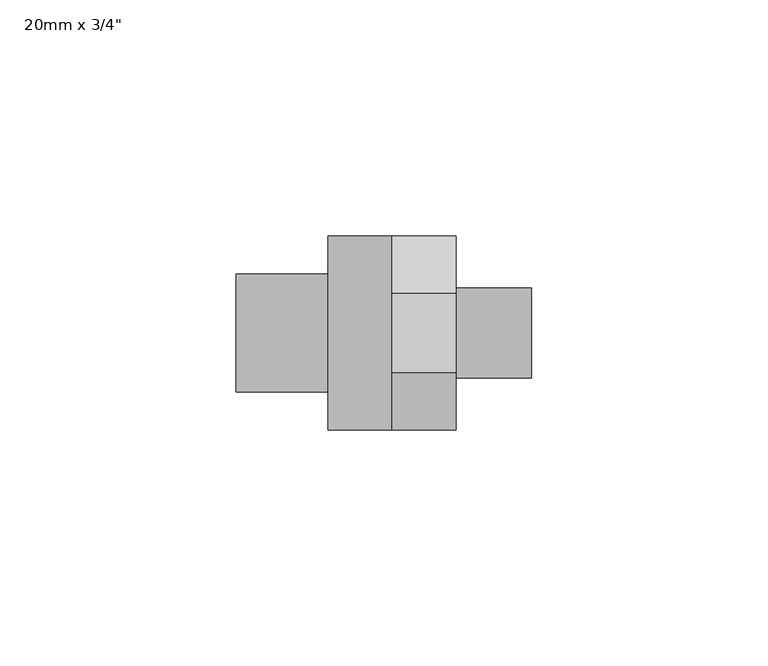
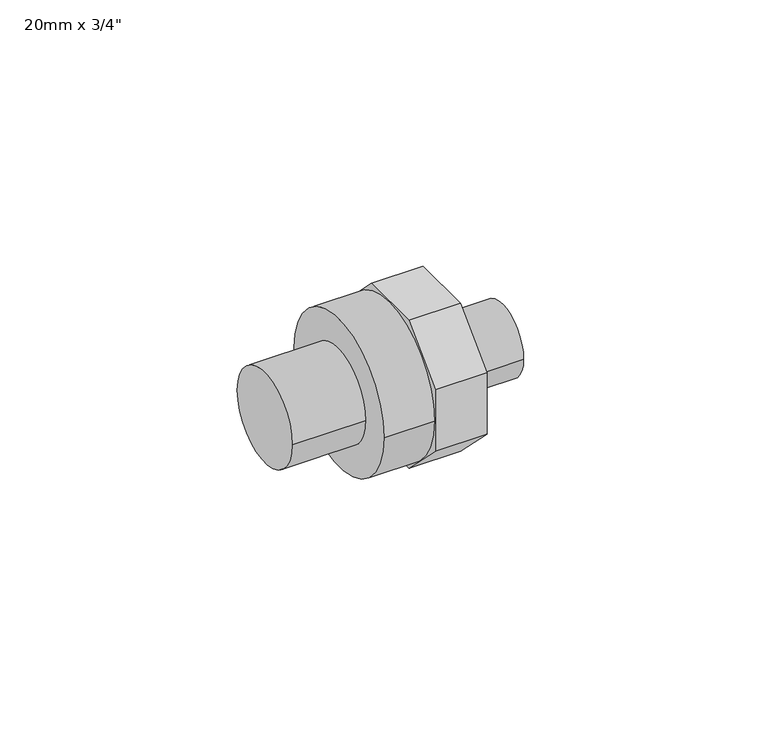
"""IFC4 building model written with IfcOpenShell, lengths in millimetres: pipe fitting geometry."""

import ifcopenshell
import ifcopenshell.guid

model = None  # the IFC model being written
_history = None  # IfcOwnerHistory: only IFC2X3 demands one
_inside = {}  # id of a spatial element -> (the spatial element, [elements in it])
_under = {}  # id of a project, library or spatial element -> (it, [spatial elements below it])
_declared = {}  # id of a project -> (the project, [libraries it declares])
_typed = {}  # id of a type object -> (the type object, [elements of that type])
_made_of = {}  # id of a material, layer set ... -> (it, [elements and type objects made of it])


def new_model(schema):
    """Start an empty IFC model of exactly this schema.

    Asked for "IFC4X3", IfcOpenShell would pick the latest addendum, in which some entities
    have other attributes; the version numbers below select the first issue.
    IFC2X3 requires an IfcOwnerHistory on every rooted entity: one is made here for all.
    """
    global model, _history
    if schema == "IFC4X3":
        model = ifcopenshell.file(schema_version=(4, 3, 0, 0))
    else:
        model = ifcopenshell.file(schema=schema)
    _inside.clear()
    _under.clear()
    _declared.clear()
    _typed.clear()
    _made_of.clear()
    _history = None
    if model.schema == "IFC2X3":
        org = make("IfcOrganization", Name="unknown")
        user = make(
            "IfcPersonAndOrganization",
            ThePerson=make("IfcPerson", FamilyName="unknown"),
            TheOrganization=org,
        )
        app = make(
            "IfcApplication",
            ApplicationDeveloper=org,
            Version="unknown",
            ApplicationFullName="unknown",
            ApplicationIdentifier="unknown",
        )
        _history = make(
            "IfcOwnerHistory",
            OwningUser=user,
            OwningApplication=app,
            ChangeAction="ADDED",
            CreationDate=0,
        )
    return model


def make(cls, **values):
    """One entity of the class cls with the attributes given. An attribute that is None is left unset."""
    return model.create_entity(
        cls, **{name: value for name, value in values.items() if value is not None}
    )


def rooted(cls, **values):
    """An entity with a GlobalId (a new one), such as an element, a storey or a relation."""
    return make(cls, GlobalId=ifcopenshell.guid.new(), OwnerHistory=_history, **values)


def si_unit(unit_type, name, prefix=None):
    """IfcSIUnit, for example si_unit("LENGTHUNIT", "METRE", prefix="MILLI")."""
    return make("IfcSIUnit", UnitType=unit_type, Prefix=prefix, Name=name)


def assignment(units):
    """IfcUnitAssignment: the units of a project."""
    return None if units is None else make("IfcUnitAssignment", Units=units)


def point(xyz):
    """IfcCartesianPoint."""
    return None if xyz is None else make("IfcCartesianPoint", Coordinates=xyz)


def direction(xyz):
    """IfcDirection."""
    return None if xyz is None else make("IfcDirection", DirectionRatios=xyz)


def frame(location, z_axis=None, x_axis=None):
    """IfcAxis2Placement3D, a coordinate frame: its origin and axes. An axis left out is left unset."""
    return make(
        "IfcAxis2Placement3D",
        Location=point(location),
        Axis=direction(z_axis),
        RefDirection=direction(x_axis),
    )


def frame_2d(location, x_axis=None):
    """IfcAxis2Placement2D, a coordinate frame in the plane: its origin and x axis."""
    return make(
        "IfcAxis2Placement2D", Location=point(location), RefDirection=direction(x_axis)
    )


def origin():
    """The frame at (0, 0, 0) with its axes left unset."""
    return frame((0.0, 0.0, 0.0))


def origin_2d():
    """The frame at (0, 0) in the plane with its x axis left unset."""
    return frame_2d((0.0, 0.0))


def place(relative_to, where):
    """IfcLocalPlacement: puts the frame where relative to a parent placement (None: the world)."""
    return make(
        "IfcLocalPlacement", PlacementRelTo=relative_to, RelativePlacement=where
    )


def context(
    kind, dimensions, precision=None, world=None, true_north=None, identifier=None
):
    """IfcGeometricRepresentationContext, for example the 3D "Model" context."""
    return make(
        "IfcGeometricRepresentationContext",
        ContextIdentifier=identifier,
        ContextType=kind,
        CoordinateSpaceDimension=dimensions,
        Precision=precision,
        WorldCoordinateSystem=world,
        TrueNorth=true_north,
    )


def project(units=None, contexts=None):
    """IfcProject with its units and contexts."""
    return rooted(
        "IfcProject",
        Name="project",
        RepresentationContexts=contexts,
        UnitsInContext=assignment(units),
    )


def spatial(cls, under=None, at=None, **own):
    """A site, building, storey or space (cls), placed at a placement, below another one or the project."""
    s = rooted(cls, ObjectPlacement=at, **own)
    if under is not None:
        _under.setdefault(under.id(), (under, []))[1].append(s)
    return s


def polyline(points):
    """IfcPolyline through the points."""
    return make("IfcPolyline", Points=[point(p) for p in points])


def circle_curve(where, radius):
    """IfcCircle in the frame where."""
    return make("IfcCircle", Position=where, Radius=radius)


def trimmed(basis, trim1, trim2, sense, master):
    """IfcTrimmedCurve: the piece of a basis curve between two trims."""
    return make(
        "IfcTrimmedCurve",
        BasisCurve=basis,
        Trim1=trim1,
        Trim2=trim2,
        SenseAgreement=sense,
        MasterRepresentation=master,
    )


def segment(curve, same_sense, transition):
    """IfcCompositeCurveSegment."""
    return make(
        "IfcCompositeCurveSegment",
        Transition=transition,
        SameSense=same_sense,
        ParentCurve=curve,
    )


def composite_curve(segments, self_intersect=None):
    """IfcCompositeCurve: segments joined end to end."""
    return make("IfcCompositeCurve", Segments=segments, SelfIntersect=self_intersect)


def outline(outer, holes=None, kind="AREA"):
    """IfcArbitraryClosedProfileDef: a profile drawn as a closed curve; with holes, ...WithVoids."""
    if holes is None:
        return make("IfcArbitraryClosedProfileDef", ProfileType=kind, OuterCurve=outer)
    return make(
        "IfcArbitraryProfileDefWithVoids",
        ProfileType=kind,
        OuterCurve=outer,
        InnerCurves=holes,
    )


def extrude(swept, where, along, depth):
    """IfcExtrudedAreaSolid: the profile swept, set in the frame where, extruded along a direction by depth."""
    return make(
        "IfcExtrudedAreaSolid",
        SweptArea=swept,
        Position=where,
        ExtrudedDirection=direction(along),
        Depth=depth,
    )


def shape(context_of_items, identifier, shape_type, items):
    """IfcShapeRepresentation: the items that make up one representation, for example the "Body"."""
    return make(
        "IfcShapeRepresentation",
        ContextOfItems=context_of_items,
        RepresentationIdentifier=identifier,
        RepresentationType=shape_type,
        Items=items,
    )


def source(mapping_origin, context_of_items, identifier, shape_type, items):
    """IfcRepresentationMap: a shape defined once, which mapped items show again and again."""
    return make(
        "IfcRepresentationMap",
        MappingOrigin=mapping_origin,
        MappedRepresentation=shape(context_of_items, identifier, shape_type, items),
    )


def transform(
    local_origin,
    x_axis=None,
    y_axis=None,
    z_axis=None,
    scale=None,
    scale2=None,
    scale3=None,
    uniform=True,
):
    """IfcCartesianTransformationOperator3D, or its non-uniform kind. x_axis, y_axis, z_axis: its Axis1, 2, 3."""
    if uniform:
        return make(
            "IfcCartesianTransformationOperator3D",
            Axis1=direction(x_axis),
            Axis2=direction(y_axis),
            LocalOrigin=point(local_origin),
            Scale=scale,
            Axis3=direction(z_axis),
        )
    return make(
        "IfcCartesianTransformationOperator3DnonUniform",
        Axis1=direction(x_axis),
        Axis2=direction(y_axis),
        LocalOrigin=point(local_origin),
        Scale=scale,
        Axis3=direction(z_axis),
        Scale2=scale2,
        Scale3=scale3,
    )


def mapped(mapping_source, mapping_target):
    """IfcMappedItem: shows the shape of a source again, moved by a transform."""
    return make(
        "IfcMappedItem", MappingSource=mapping_source, MappingTarget=mapping_target
    )


def made_of(thing, what):
    """Note that an element or type object is made of a material, layer set ...; save() writes the relation."""
    if what is not None:
        _made_of.setdefault(what.id(), (what, []))[1].append(thing)
    return thing


def element(
    cls,
    number,
    at=None,
    inside=None,
    cuts=None,
    type_object=None,
    material=None,
    context=None,
    identifier="Body",
    shape_type=None,
    held_by="IfcProductDefinitionShape",
    body=None,
    shapes=None,
    **own,
):
    """One element of the class cls, such as IfcWall. Its Tag is "e" and its number.

    at: its placement. inside: the storey or other place that contains it. cuts: it is an
    opening in that element (IfcRelVoidsElement). A single representation is given by context,
    identifier, shape_type and body (its items); several are given by shapes. held_by: the class
    of the entity that holds the representations. save() writes the other relations.
    """
    e = rooted(cls, Tag="e%d" % number, ObjectPlacement=at, **own)
    if body is not None:
        shapes = [shape(context, identifier, shape_type, body)]
    if shapes is not None:
        e.Representation = make(held_by, Representations=shapes)
    if inside is not None:
        _inside.setdefault(inside.id(), (inside, []))[1].append(e)
    if cuts is not None:
        rooted(
            "IfcRelVoidsElement", RelatingBuildingElement=cuts, RelatedOpeningElement=e
        )
    if type_object is not None:
        _typed.setdefault(type_object.id(), (type_object, []))[1].append(e)
    return made_of(e, material)


def aggregate(whole, parts):
    """IfcRelAggregates: a whole, such as a stair, and the parts it consists of."""
    return rooted("IfcRelAggregates", RelatingObject=whole, RelatedObjects=parts)


def save(model, path):
    """Write the relations noted so far, then the file.

    IfcRelAggregates (storeys below a building ...), IfcRelContainedInSpatialStructure (elements
    in a storey), IfcRelDefinesByType, IfcRelAssociatesMaterial and IfcRelDeclares: one each for
    every whole, place, type object, material and project.
    """
    for whole, parts in _under.values():
        aggregate(whole, parts)
    for where, things in _inside.values():
        rooted(
            "IfcRelContainedInSpatialStructure",
            RelatedElements=things,
            RelatingStructure=where,
        )
    for kind, things in _typed.values():
        rooted("IfcRelDefinesByType", RelatedObjects=things, RelatingType=kind)
    for what, things in _made_of.values():
        rooted("IfcRelAssociatesMaterial", RelatedObjects=things, RelatingMaterial=what)
    for by, libraries in _declared.values():
        rooted("IfcRelDeclares", RelatingContext=by, RelatedDefinitions=libraries)
    model.write(path)


def pipe_fitting_e957e6a1(model_context):
    return source(origin(), model_context, "Body", "SweptSolid", [
        extrude(outline(composite_curve([segment(trimmed(circle_curve(origin_2d(), 9.525), [point((-9.525, 0.0))], [point((9.525, 0.0))], False, "CARTESIAN"), True, "CONTINUOUS"), segment(trimmed(circle_curve(origin_2d(), 9.525), [point((9.525, 0.0))], [point((-9.525, 0.0))], False, "CARTESIAN"), True, "CONTINUOUS")], self_intersect=False)), frame((36.75, 0.0, 0.0), z_axis=(1.0, 0.0, 0.0), x_axis=(0.0, 1.0, 0.0)), (0.0, 0.0, 1.0), 16.0),
        extrude(outline(polyline([(8.491378, 20.5), (20.5, 8.491378), (20.5, -8.491378), (8.491378, -20.5), (-8.491378, -20.5), (-20.5, -8.491378), (-20.5, 8.491378), (-8.491378, 20.5), (8.491378, 20.5)])), frame((23.25, 0.0, 0.0), z_axis=(1.0, 0.0, 0.0), x_axis=(0.0, 1.0, 0.0)), (0.0, 0.0, 1.0), 13.5),
        extrude(outline(composite_curve([segment(trimmed(circle_curve(origin_2d(), 20.5), [point((-20.5, 0.0))], [point((20.5, 0.0))], False, "CARTESIAN"), True, "CONTINUOUS"), segment(trimmed(circle_curve(origin_2d(), 20.5), [point((20.5, 0.0))], [point((-20.5, 0.0))], False, "CARTESIAN"), True, "CONTINUOUS")], self_intersect=False)), frame((9.75, 0.0, 0.0), z_axis=(1.0, 0.0, 0.0), x_axis=(0.0, 1.0, 0.0)), (0.0, 0.0, 1.0), 13.5),
        extrude(outline(composite_curve([segment(trimmed(circle_curve(origin_2d(), 12.5), [point((-12.5, 0.0))], [point((12.5, 0.0))], False, "CARTESIAN"), True, "CONTINUOUS"), segment(trimmed(circle_curve(origin_2d(), 12.5), [point((12.5, 0.0))], [point((-12.5, 0.0))], False, "CARTESIAN"), True, "CONTINUOUS")], self_intersect=False)), frame((-9.75, 0.0, 0.0), z_axis=(1.0, 0.0, 0.0), x_axis=(0.0, 1.0, 0.0)), (0.0, 0.0, 1.0), 19.5),
    ])


if __name__ == "__main__":
    model = new_model("IFC4")
    model_context = context("Model", 3, world=origin())
    ifc_project = project(units=[si_unit("LENGTHUNIT", "METRE", prefix="MILLI")], contexts=[model_context])
    site = spatial("IfcSite", under=ifc_project)
    building = spatial("IfcBuilding", under=site)
    placement = place(None, origin())
    pipe_fitting_shape = pipe_fitting_e957e6a1(model_context)
    element("IfcPipeFitting", 1, ObjectType="PipeFitting_HTA_CPVC_AdaptorNipplesB : 20mm x 3/4\"", at=placement, inside=building, context=model_context, shape_type="MappedRepresentation", body=[
        mapped(pipe_fitting_shape, transform((0.0, 0.0, 0.0), x_axis=(1.0, 0.0, 0.0), y_axis=(0.0, 1.0, 0.0), z_axis=(0.0, 0.0, 1.0))),
    ])
    save(model, "model.ifc")
